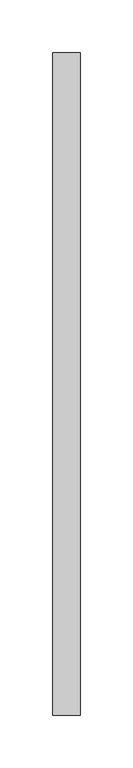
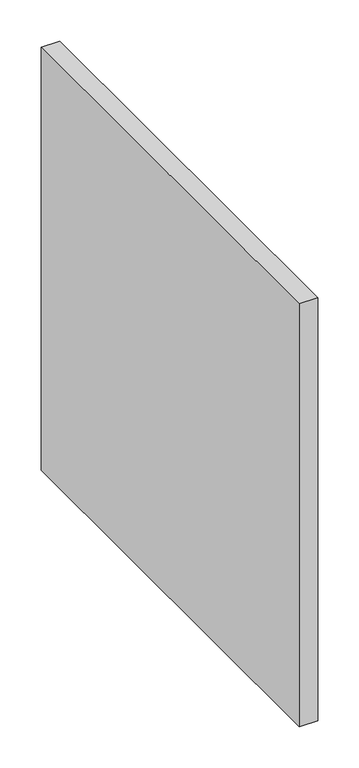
"""IFC4 building model written with IfcOpenShell, lengths in millimetres: duct fitting geometry, ADSK_ВрезкаВоздуховода_Прямоугольная : Стандарт."""

from ifc_helpers import new_model, si_unit, frame, origin, place, context, project, spatial, polyline, outline, extrude, source, transform, mapped, element, save


def duct_fitting_87cf8bbf(model_context):
    return source(origin(), model_context, "Body", "SweptSolid", [
        extrude(outline(polyline([(-6.096, 315.0), (20.0, 315.0), (20.0, -315.0), (-6.096, -315.0), (-6.096, 315.0)])), frame((0.0, 0.0, -315.0), z_axis=(0.0, 0.0, 1.0), x_axis=(1.0, 0.0, 0.0)), (0.0, 0.0, 1.0), 630.0),
    ])


if __name__ == "__main__":
    model = new_model("IFC4")
    model_context = context("Model", 3, world=origin())
    ifc_project = project(units=[si_unit("LENGTHUNIT", "METRE", prefix="MILLI")], contexts=[model_context])
    site = spatial("IfcSite", under=ifc_project)
    building = spatial("IfcBuilding", under=site)
    placement = place(None, origin())
    duct_fitting_shape = duct_fitting_87cf8bbf(model_context)
    element("IfcDuctFitting", 1, ObjectType="ADSK_ВрезкаВоздуховода_Прямоугольная : Стандарт", at=placement, inside=building, context=model_context, shape_type="MappedRepresentation", body=[
        mapped(duct_fitting_shape, transform((0.0, 0.0, 0.0), x_axis=(1.0, 0.0, 0.0), y_axis=(0.0, 1.0, 0.0), z_axis=(0.0, 0.0, 1.0))),
    ])
    save(model, "model.ifc")
